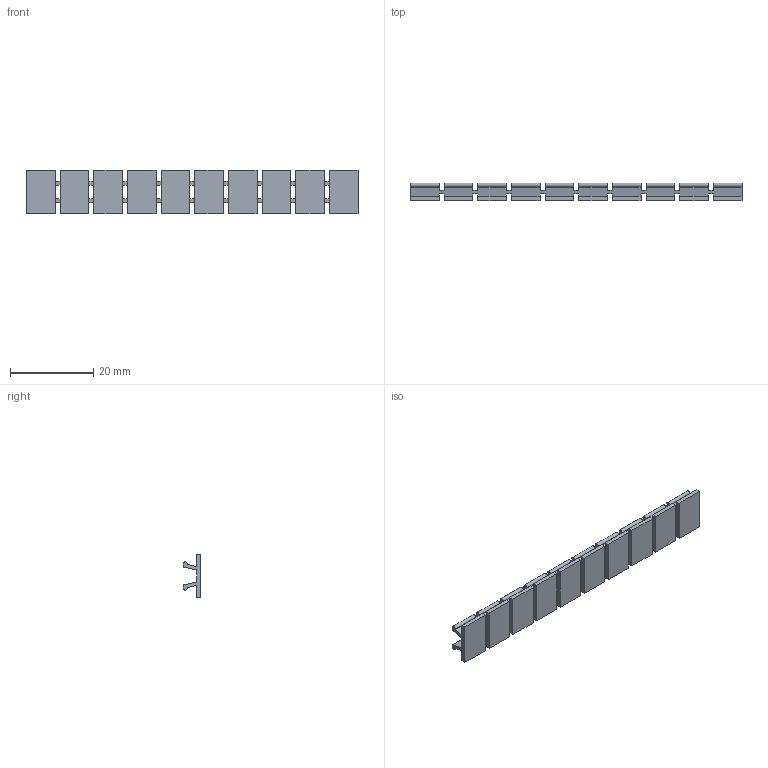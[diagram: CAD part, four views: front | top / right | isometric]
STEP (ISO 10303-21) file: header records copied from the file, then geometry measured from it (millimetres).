
FILE_DESCRIPTION( ('This file contains a STEP AP42 implementation' ,'as created by ZW3D STEP Interface translator.') ,'2;1' );
FILE_NAME( 'ZB8梓暮沭.stp' ,'23 615.1748 1', (''), ('ZWCAD Software Co.'), 'Version 1.0', 'ZW3D to STEP translator', '' );
FILE_SCHEMA(('AUTOMOTIVE_DESIGN { 1 0 10303 214 1 1 1 1 }'));
Length unit declared in the file: millimetre
Products named in the file (2): 0; ZB8梓暮沭
Bounding box: 79.9 x 4.3 x 10.45 mm (x, y, z)
Volume: 1164.3 mm3; surface area: 2965.6 mm2
Topology: 1 solids, 1 shells, 236 faces, 774 edges, 541 vertices
Faces by surface type: plane 196, cylinder 40
Entity records: 8663 total; most frequent: CARTESIAN_POINT 1516, ORIENTED_EDGE 1512, DIRECTION 1332, EDGE_CURVE 756, VECTOR 690, LINE 690, VERTEX_POINT 504, AXIS2_PLACEMENT_3D 321
